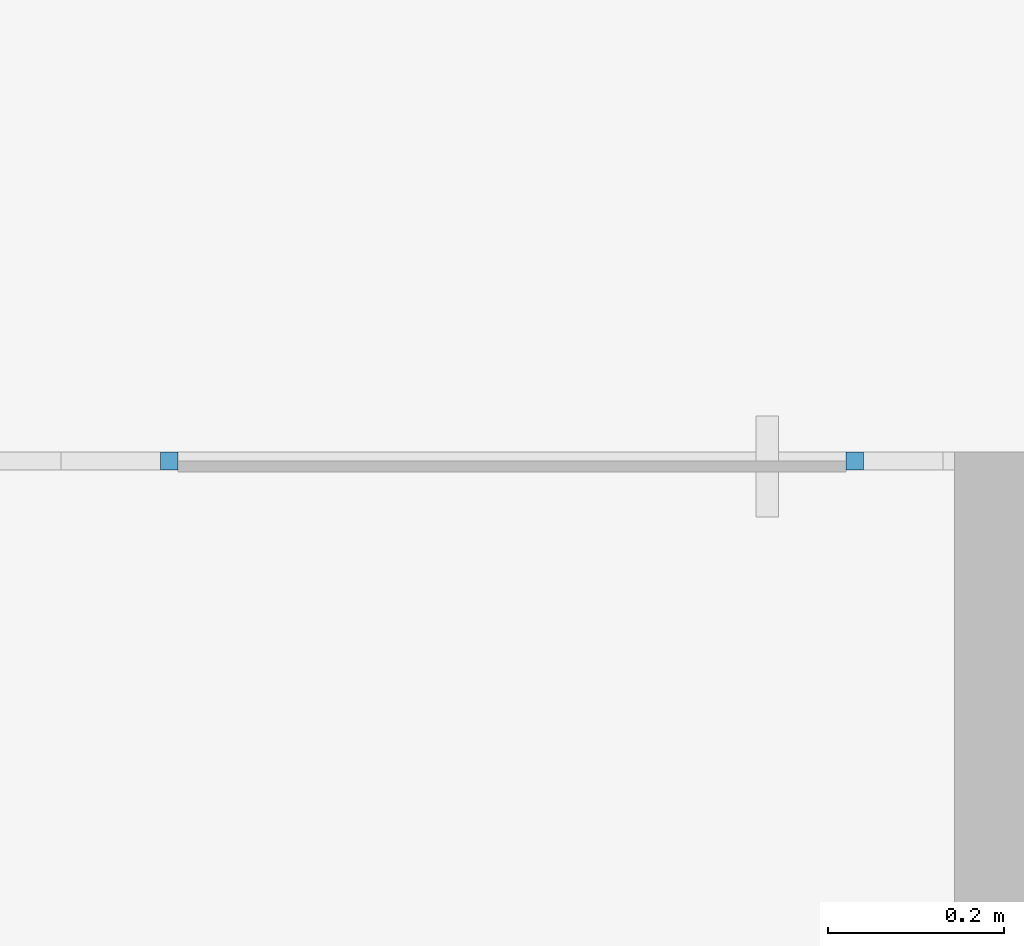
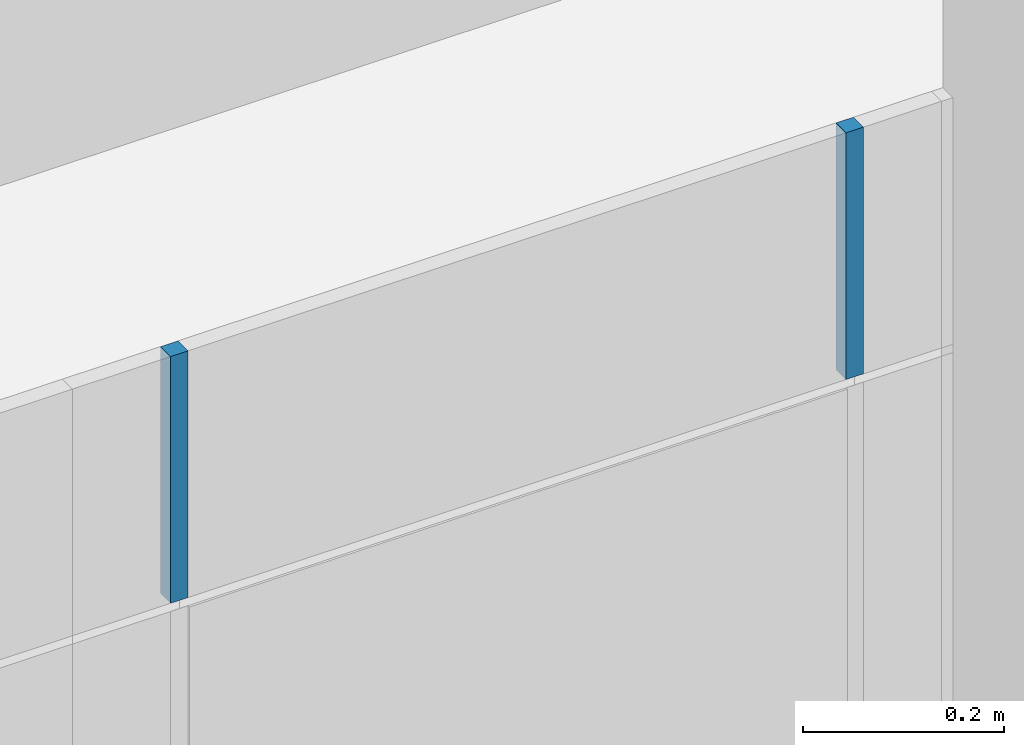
# One storey, part 8 of 66: 2 members, 1 element without a shape of its own.
"""IFC2X3 building model written with IfcOpenShell, lengths in millimetres."""

from ifc_helpers import new_model, entity, si_unit, converted_unit, derived_unit, direction, frame, origin, origin_2d_with_axis, place, context, subcontext, project, spatial, rectangle, extrude, source, transform, mapped, material, type_object, type_shapes, element, aggregate, save


model = new_model("IFC2X3")

# Units and contexts
model_context = context("Model", 3, precision=0.01, world=origin(), true_north=direction((6.12303176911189e-17, 1.0)))
body_context = subcontext(model_context, "Body", "Model", "MODEL_VIEW")
ifc_project = project(units=[si_unit("LENGTHUNIT", "METRE", prefix="MILLI"), si_unit("AREAUNIT", "SQUARE_METRE"), si_unit("VOLUMEUNIT", "CUBIC_METRE"), converted_unit("PLANEANGLEUNIT", "DEGREE", entity("IfcRatioMeasure", 0.0174532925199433), si_unit("PLANEANGLEUNIT", "RADIAN"), dimensions=[0, 0, 0, 0, 0, 0, 0]), si_unit("MASSUNIT", "GRAM", prefix="KILO"), derived_unit("MASSDENSITYUNIT", [(si_unit("MASSUNIT", "GRAM", prefix="KILO"), 1), (si_unit("LENGTHUNIT", "METRE"), -3)]), si_unit("TIMEUNIT", "SECOND"), si_unit("FREQUENCYUNIT", "HERTZ"), si_unit("THERMODYNAMICTEMPERATUREUNIT", "DEGREE_CELSIUS"), derived_unit("THERMALTRANSMITTANCEUNIT", [(si_unit("MASSUNIT", "GRAM", prefix="KILO"), 1), (si_unit("THERMODYNAMICTEMPERATUREUNIT", "KELVIN"), -1), (si_unit("TIMEUNIT", "SECOND"), -3)]), derived_unit("VOLUMETRICFLOWRATEUNIT", [(si_unit("LENGTHUNIT", "METRE"), 3), (si_unit("TIMEUNIT", "SECOND"), -1)]), si_unit("ELECTRICCURRENTUNIT", "AMPERE"), si_unit("ELECTRICVOLTAGEUNIT", "VOLT"), si_unit("POWERUNIT", "WATT"), si_unit("FORCEUNIT", "NEWTON", prefix="KILO"), si_unit("ILLUMINANCEUNIT", "LUX"), si_unit("LUMINOUSFLUXUNIT", "LUMEN"), si_unit("LUMINOUSINTENSITYUNIT", "CANDELA"), derived_unit("USERDEFINED", [(si_unit("MASSUNIT", "GRAM", prefix="KILO"), -1), (si_unit("LENGTHUNIT", "METRE"), -2), (si_unit("TIMEUNIT", "SECOND"), 3), (si_unit("LUMINOUSFLUXUNIT", "LUMEN"), 1)]), derived_unit("LINEARVELOCITYUNIT", [(si_unit("LENGTHUNIT", "METRE"), 1), (si_unit("TIMEUNIT", "SECOND"), -1)]), si_unit("PRESSUREUNIT", "PASCAL"), derived_unit("USERDEFINED", [(si_unit("LENGTHUNIT", "METRE"), -2), (si_unit("MASSUNIT", "GRAM", prefix="KILO"), 1), (si_unit("TIMEUNIT", "SECOND"), -2)])], contexts=[model_context])

# Site, building, storey
site_placement = place(None, frame((-151.875543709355, 2715.0, 0.0)))
site = spatial("IfcSite", under=ifc_project, at=site_placement, Name="Surface", CompositionType="ELEMENT")
building_placement = place(site_placement, origin())
building = spatial("IfcBuilding", under=site, at=building_placement, CompositionType="ELEMENT")
storey_placement = place(building_placement, frame((0.0, 0.0, 3350.0)))
storey = spatial("IfcBuildingStorey", under=building, at=storey_placement, Name="2 korrus", CompositionType="ELEMENT", Elevation=3350.00000000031)

# Curtain wall, members
curtain_wall_type = type_object("IfcCurtainWallType", Name="Curtain Wall:Klaassein KLS-10", PredefinedType="NOTDEFINED")
curtain_wall_placement = place(storey_placement, frame((0.0, 0.0, -3350.0)))
curtain_wall = element("IfcCurtainWall", 1, at=curtain_wall_placement, inside=storey, type_object=curtain_wall_type, Name="Curtain Wall:Klaassein KLS-10", ObjectType="Curtain Wall:Klaassein KLS-10")
ifc_material = material(Name="__Uks_hele tamm")
member_type = type_object("IfcMemberType", Name="20 x 20mm", PredefinedType="MEMBER")
shared_shape = source(origin(), body_context, "Body", "SweptSolid", [
    extrude(rectangle(XDim=20.0, YDim=20.0, at=origin_2d_with_axis()), frame((0.0, 0.0, -300.0), z_axis=(0.0, 0.0, 1.0), x_axis=(0.0, -1.0, 0.0)), (0.0, 0.0, 1.0), 299.999999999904),
])
type_shapes(member_type, [shared_shape])
member_1_placement = place(storey_placement, frame((6852.81503480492, 8850.0, 2100.0), z_axis=(0.0, 0.0, -1.0), x_axis=(-1.0, 0.0, 0.0)))
member_1 = element("IfcMember", 2, at=member_1_placement, type_object=member_type, material=ifc_material, Name="Rectangular Mullion:20 x 20mm", ObjectType="20 x 20mm", context=body_context, shape_type="MappedRepresentation", body=[
    mapped(shared_shape, transform((0.0, 0.0, 0.0), scale=1.0)),
])
member_2_placement = place(storey_placement, frame((6075.82447316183, 8850.0, 2100.0), z_axis=(0.0, 0.0, -1.0), x_axis=(-1.0, 0.0, 0.0)))
member_2 = element("IfcMember", 3, at=member_2_placement, type_object=member_type, material=ifc_material, Name="Rectangular Mullion:20 x 20mm", ObjectType="20 x 20mm", context=body_context, shape_type="MappedRepresentation", body=[
    mapped(shared_shape, transform((0.0, 0.0, 0.0), scale=1.0)),
])
aggregate(curtain_wall, [member_1, member_2])

save(model, "model.ifc")
